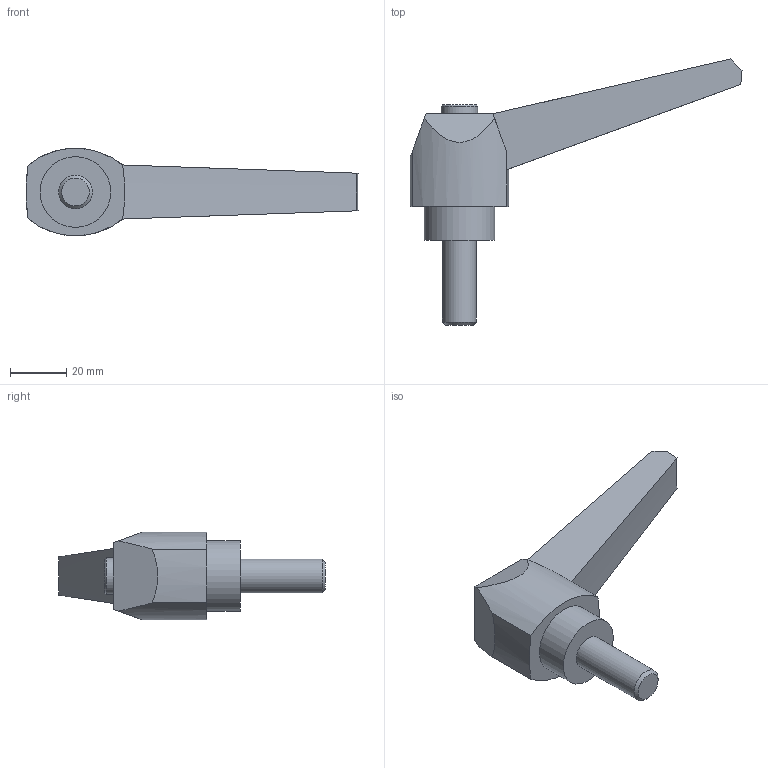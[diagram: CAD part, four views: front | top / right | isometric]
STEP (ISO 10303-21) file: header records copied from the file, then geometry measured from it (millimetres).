
FILE_DESCRIPTION( ( 'STEP AP203' ), '1' );
FILE_NAME( 'C:/Temp/Ganter_Step_05_03_2020/data/2_1/gn_500/gn_500_ms/Adjustable hand lever GN 500-100-M12-30-SW.stp', '2020-03-05T11:26:39', ( 'License CC BY-ND 4.0' ), ( 'CADENAS' ), ' ', 'PARTsolutions', ' ' );
FILE_SCHEMA( ( 'CONFIG_CONTROL_DESIGN' ) );
Length unit declared in the file: millimetre
Products named in the file (1): _Adjustable hand lever GN 500-100-M12-30-SW
Bounding box: 117.62 x 94.28 x 31 mm (x, y, z)
Volume: 59784.8 mm3; surface area: 12493.4 mm2
Topology: 1 solids, 1 shells, 24 faces, 56 edges, 37 vertices
Faces by surface type: plane 11, cylinder 7, cone 6
Full cylindrical faces by diameter (mm): 12 x1, 13 x1, 25 x1
Entity records: 709 total; most frequent: CARTESIAN_POINT 124, DIRECTION 118, ORIENTED_EDGE 100, EDGE_CURVE 50, AXIS2_PLACEMENT_3D 47, VERTEX_POINT 36, EDGE_LOOP 32, FACE_OUTER_BOUND 27
